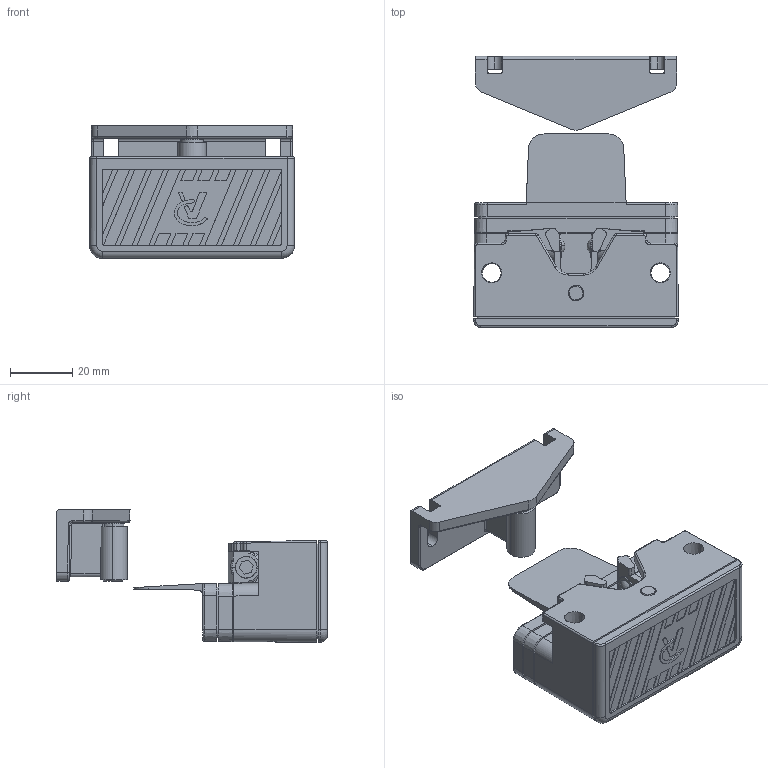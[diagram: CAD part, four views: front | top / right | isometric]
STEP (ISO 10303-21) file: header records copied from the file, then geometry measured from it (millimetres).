
FILE_DESCRIPTION (( 'STEP AP214' ), '1' );
FILE_NAME ('013.100.070.STEP', '2024-02-22T08:16:30', ( '' ), ( '' ), 'SwSTEP 2.0', 'SolidWorks 2021', '' );
FILE_SCHEMA (( 'AUTOMOTIVE_DESIGN' ));
Length unit declared in the file: millimetre
Products named in the file (13): 013.100.070 PARTE MOBILE; 013.100.070D; 013.100.070; SFERA06; 013.100.070C; 013.100.070G; 013.100.070H; 013.100.070E; 013.100.070F; 013.100.070A; 0520UNI8735; 013.100.070B; 013.100.070I
Assembly tree (15 placements, depth 3):
  013.100.070
    013.100.070A
    013.100.070 PARTE MOBILE
      013.100.070B
      SFERA06  x2
      013.100.070G  x2
      0520UNI8735
      013.100.070F  x2
    013.100.070H
    013.100.070I
    013.100.070D
    013.100.070C
    013.100.070E
Bounding box: 65.5 x 86.77 x 42.5 mm (x, y, z)
Volume: 58547.3 mm3; surface area: 48079.2 mm2
Topology: 14 solids, 16 shells, 1043 faces, 2709 edges, 1719 vertices
Faces by surface type: plane 461, cone 237, cylinder 179, bspline 104, torus 48, sphere 14
Entity records: 36705 total; most frequent: CARTESIAN_POINT 12522, ORIENTED_EDGE 5242, DIRECTION 4582, EDGE_CURVE 2621, VERTEX_POINT 1671, AXIS2_PLACEMENT_3D 1581, LINE 1420, VECTOR 1420
